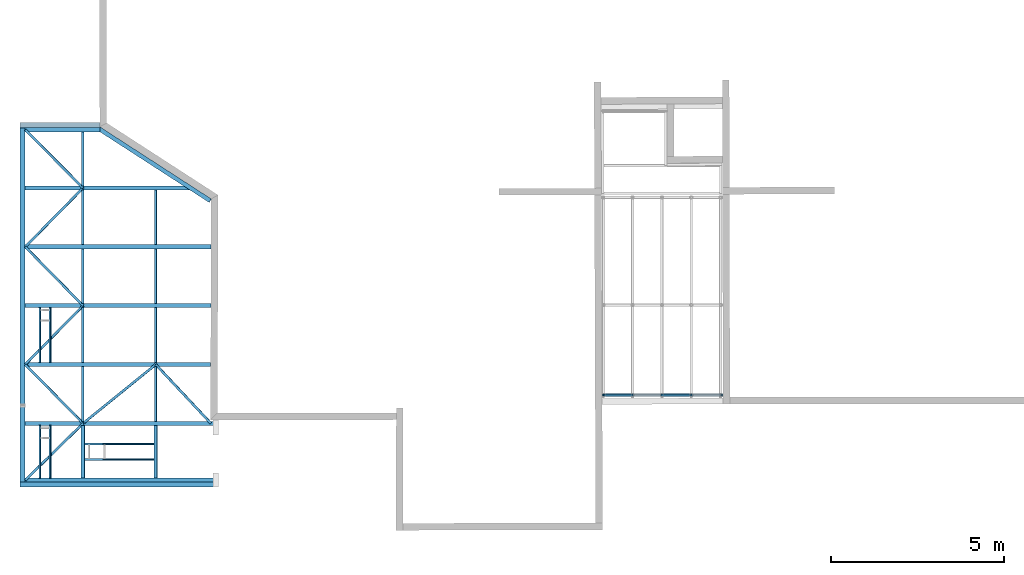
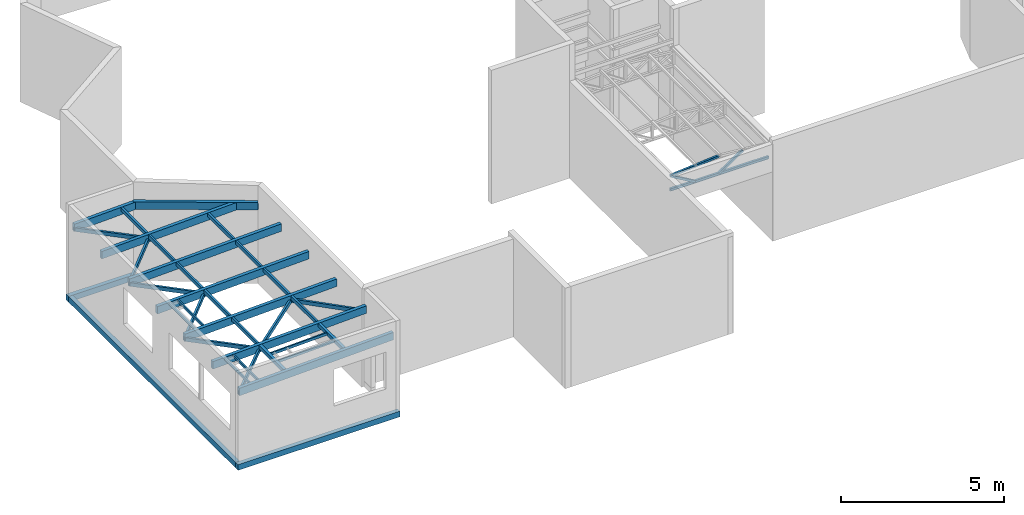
# One storey, part 3 of 9: 41 beams, 41 elements without a shape of their own.
"""IFC2X3 building model written with IfcOpenShell, lengths in millimetres."""

from ifc_helpers import new_model, si_unit, frame, origin_with_axes, origin_2d_with_axis, place, context, subcontext, project, spatial, rectangle, hollow_rectangle, u_section, extrude, clip, halfspace, material, type_object, element, aggregate, save


model = new_model("IFC2X3")

# Units and contexts
model_context = context("Model", 3, precision=1e-05, world=origin_with_axes())
body_context = subcontext(model_context, "Body", "Model", "MODEL_VIEW")
ifc_project = project(units=[si_unit("LENGTHUNIT", "METRE", prefix="MILLI"), si_unit("AREAUNIT", "SQUARE_METRE"), si_unit("VOLUMEUNIT", "CUBIC_METRE"), si_unit("MASSUNIT", "GRAM", prefix="KILO"), si_unit("TIMEUNIT", "SECOND"), si_unit("PLANEANGLEUNIT", "RADIAN"), si_unit("SOLIDANGLEUNIT", "STERADIAN"), si_unit("THERMODYNAMICTEMPERATUREUNIT", "DEGREE_CELSIUS"), si_unit("LUMINOUSINTENSITYUNIT", "LUMEN")], contexts=[model_context])

# Site, building, storey
site_placement = place(None, origin_with_axes())
site = spatial("IfcSite", under=ifc_project, at=site_placement, Name="01_26-05_PRO_BOULAZAC_CMA-FORMATION", CompositionType="ELEMENT")
building_placement = place(site_placement, origin_with_axes())
building = spatial("IfcBuilding", under=site, at=building_placement, Name="Undefined", CompositionType="ELEMENT")
storey_placement = place(building_placement, origin_with_axes())
storey = spatial("IfcBuildingStorey", under=building, at=storey_placement, Name="Undefined", CompositionType="ELEMENT", Elevation=0.0)

# Assembly, beam
assembly_1_placement = place(storey_placement, origin_with_axes())
assembly_1 = element("IfcElementAssembly", 1, at=assembly_1_placement, inside=storey, Name="OMEGA", AssemblyPlace="NOTDEFINED", PredefinedType="NOTDEFINED")
ifc_material_1 = material(Name="STEEL/S235JR")
beam_type_1 = type_object("IfcBeamType", Name="C40*30*2", PredefinedType="NOTDEFINED")
beam_1_placement = place(assembly_1_placement, frame((20796.849700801, 8060.00000006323, 2955.0), z_axis=(0.0, 1.0, 0.0), x_axis=(-1.0, 0.0, 0.0)))
beam_1 = element("IfcBeam", 2, at=beam_1_placement, type_object=beam_type_1, material=ifc_material_1, Name="OMEGA", context=body_context, shape_type="SweptSolid", body=[
    extrude(u_section(Depth=40.0, FlangeWidth=30.0, WebThickness=2.0, FlangeThickness=2.0, FilletRadius=3.0, at=origin_2d_with_axis()), frame((3479.99999999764, 0.0, 0.0), z_axis=(-1.0, 0.0, 0.0), x_axis=(0.0, -1.0, 0.0)), (0.0, 0.0, 1.0), 3480.0),
])
aggregate(assembly_1, [beam_1])

assembly_2_placement = place(storey_placement, origin_with_axes())
assembly_2 = element("IfcElementAssembly", 3, at=assembly_2_placement, inside=storey, Name="TREILLIS", AssemblyPlace="NOTDEFINED", PredefinedType="NOTDEFINED")
beam_type_2 = type_object("IfcBeamType", Name="TUBE-C-80*80*3", PredefinedType="NOTDEFINED")
beam_2_placement = place(assembly_2_placement, frame((17316.8497008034, 8060.00000006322, 3010.0), z_axis=(0.0, 0.0, 1.0), x_axis=(1.0, 0.0, 0.0)))
beam_2 = element("IfcBeam", 4, at=beam_2_placement, type_object=beam_type_2, material=ifc_material_1, Name="TREILLIS", context=body_context, shape_type="SweptSolid", body=[
    extrude(hollow_rectangle(XDim=80.0, YDim=80.0, WallThickness=3.0, InnerFilletRadius=3.0, OuterFilletRadius=6.0, at=origin_2d_with_axis()), frame((3479.99999999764, 0.0, 0.0), z_axis=(-1.0, 0.0, 0.0), x_axis=(0.0, -1.0, 0.0)), (0.0, 0.0, 1.0), 3480.0),
])
aggregate(assembly_2, [beam_2])

assembly_3_placement = place(storey_placement, origin_with_axes())
assembly_3 = element("IfcElementAssembly", 5, at=assembly_3_placement, inside=storey, Name="TREILLIS", AssemblyPlace="NOTDEFINED", PredefinedType="NOTDEFINED")
beam_3_placement = place(assembly_3_placement, frame((19886.8497008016, 8060.00000007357, 3583.64662416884), z_axis=(-0.559403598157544, 0.0, 0.828895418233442), x_axis=(-0.828895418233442, 0.0, -0.559403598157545)))
beam_3 = element("IfcBeam", 6, at=beam_3_placement, type_object=beam_type_2, material=ifc_material_1, Name="TREILLIS", context=body_context, shape_type="SweptSolid", body=[
    extrude(hollow_rectangle(XDim=80.0, YDim=80.0, WallThickness=3.0, InnerFilletRadius=3.0, OuterFilletRadius=6.0, at=origin_2d_with_axis()), frame((1025.46109069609, 1.81898940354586e-12, 0.0), z_axis=(-1.0, 0.0, 0.0), x_axis=(0.0, -1.0, 0.0)), (0.0, 0.0, 1.0), 1025.46),
])
aggregate(assembly_3, [beam_3])

assembly_4_placement = place(storey_placement, origin_with_axes())
assembly_4 = element("IfcElementAssembly", 7, at=assembly_4_placement, inside=storey, Name="TREILLIS", AssemblyPlace="NOTDEFINED", PredefinedType="NOTDEFINED")
beam_4_placement = place(assembly_4_placement, frame((17336.8497008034, 8060.0000000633, 3509.28124104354), z_axis=(0.506478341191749, 0.0, 0.862252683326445), x_axis=(0.862252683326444, 0.0, -0.50647834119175)))
beam_4 = element("IfcBeam", 8, at=beam_4_placement, type_object=beam_type_2, material=ifc_material_1, Name="TREILLIS", context=body_context, shape_type="SweptSolid", body=[
    extrude(hollow_rectangle(XDim=80.0, YDim=80.0, WallThickness=3.0, InnerFilletRadius=3.0, OuterFilletRadius=6.0, at=origin_2d_with_axis()), frame((985.789929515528, 0.0, 5.47223338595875e-14), z_axis=(-1.0, 0.0, 0.0), x_axis=(0.0, -1.0, 0.0)), (0.0, 0.0, 1.0), 985.79),
])
aggregate(assembly_4, [beam_4])

assembly_5_placement = place(storey_placement, origin_with_axes())
assembly_5 = element("IfcElementAssembly", 9, at=assembly_5_placement, inside=storey, Name="TREILLIS", AssemblyPlace="NOTDEFINED", PredefinedType="NOTDEFINED")
beam_5_placement = place(assembly_5_placement, frame((19040.3359307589, 8060.00000007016, 3658.31698534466), z_axis=(0.0, -1.0, 0.0), x_axis=(-0.996194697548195, 0.0, -0.087155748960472)))
beam_5 = element("IfcBeam", 10, at=beam_5_placement, type_object=beam_type_2, material=ifc_material_1, Name="TREILLIS", context=body_context, shape_type="SweptSolid", body=[
    extrude(hollow_rectangle(XDim=80.0, YDim=80.0, WallThickness=3.0, InnerFilletRadius=3.0, OuterFilletRadius=6.0, at=origin_2d_with_axis()), frame((1726.57012151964, -2.3960973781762e-14, 9.09494701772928e-13), z_axis=(-1.0, 0.0, 0.0), x_axis=(0.0, -1.0, 0.0)), (0.0, 0.0, 1.0), 1726.57),
])
aggregate(assembly_5, [beam_5])

assembly_6_placement = place(storey_placement, origin_with_axes())
assembly_6 = element("IfcElementAssembly", 11, at=assembly_6_placement, inside=storey, AssemblyPlace="NOTDEFINED", PredefinedType="NOTDEFINED")
ifc_material_2 = material(Name="TIMBER/C24")
beam_type_3 = type_object("IfcBeamType", Name="50*100", PredefinedType="NOTDEFINED")
beam_6_placement = place(assembly_6_placement, frame((1064.4861373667, 5664.07251771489, 2894.89372097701), z_axis=(0.999390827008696, 0.0, 0.0348994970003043), x_axis=(0.0, 1.0, 0.0)))
beam_6 = element("IfcBeam", 12, at=beam_6_placement, type_object=beam_type_3, material=ifc_material_2, Name="CHEVETRE", context=body_context, shape_type="SweptSolid", body=[
    extrude(rectangle(XDim=100.0, YDim=50.0, at=origin_2d_with_axis()), frame((1520.0, -4.54747350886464e-13, 0.0), z_axis=(-1.0, 0.0, 0.0), x_axis=(0.0, -1.0, 0.0)), (0.0, 0.0, 1.0), 1520.0),
])
aggregate(assembly_6, [beam_6])

assembly_7_placement = place(storey_placement, origin_with_axes())
assembly_7 = element("IfcElementAssembly", 13, at=assembly_7_placement, inside=storey, AssemblyPlace="NOTDEFINED", PredefinedType="NOTDEFINED")
beam_7_placement = place(assembly_7_placement, frame((1364.30338546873, 7184.07251771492, 2905.36357008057), z_axis=(-0.999390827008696, 0.0, -0.0348994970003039), x_axis=(0.0, -1.0, 0.0)))
beam_7 = element("IfcBeam", 14, at=beam_7_placement, type_object=beam_type_3, material=ifc_material_2, Name="CHEVETRE", context=body_context, shape_type="SweptSolid", body=[
    extrude(rectangle(XDim=100.0, YDim=50.0, at=origin_2d_with_axis()), frame((1520.0, -4.54747350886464e-13, 0.0), z_axis=(-1.0, 0.0, 0.0), x_axis=(0.0, -1.0, 0.0)), (0.0, 0.0, 1.0), 1520.0),
])
aggregate(assembly_7, [beam_7])

assembly_8_placement = place(storey_placement, origin_with_axes())
assembly_8 = element("IfcElementAssembly", 15, at=assembly_8_placement, inside=storey, AssemblyPlace="NOTDEFINED", PredefinedType="NOTDEFINED")
beam_8_placement = place(assembly_8_placement, frame((1064.48613736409, 9004.0725177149, 2894.89372097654), z_axis=(0.999390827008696, 0.0, 0.0348994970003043), x_axis=(0.0, 1.0, 0.0)))
beam_8 = element("IfcBeam", 16, at=beam_8_placement, type_object=beam_type_3, material=ifc_material_2, Name="CHEVETRE", context=body_context, shape_type="SweptSolid", body=[
    extrude(rectangle(XDim=100.0, YDim=50.0, at=origin_2d_with_axis()), frame((1580.0, 0.0, 0.0), z_axis=(-1.0, 0.0, 0.0), x_axis=(0.0, -1.0, 0.0)), (0.0, 0.0, 1.0), 1580.0),
])
aggregate(assembly_8, [beam_8])

assembly_9_placement = place(storey_placement, origin_with_axes())
assembly_9 = element("IfcElementAssembly", 17, at=assembly_9_placement, inside=storey, AssemblyPlace="NOTDEFINED", PredefinedType="NOTDEFINED")
beam_9_placement = place(assembly_9_placement, frame((1364.30338546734, 10584.0725177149, 2905.36357008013), z_axis=(-0.999390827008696, 0.0, -0.0348994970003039), x_axis=(0.0, -1.0, 0.0)))
beam_9 = element("IfcBeam", 18, at=beam_9_placement, type_object=beam_type_3, material=ifc_material_2, Name="CHEVETRE", context=body_context, shape_type="SweptSolid", body=[
    extrude(rectangle(XDim=100.0, YDim=50.0, at=origin_2d_with_axis()), frame((1580.0, 0.0, 0.0), z_axis=(-1.0, 0.0, 0.0), x_axis=(0.0, -1.0, 0.0)), (0.0, 0.0, 1.0), 1580.0),
])
aggregate(assembly_9, [beam_9])

assembly_10_placement = place(storey_placement, origin_with_axes())
assembly_10 = element("IfcElementAssembly", 19, at=assembly_10_placement, inside=storey, AssemblyPlace="NOTDEFINED", PredefinedType="NOTDEFINED")
beam_10_placement = place(assembly_10_placement, frame((2360.35420885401, 6649.07251771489, 2940.1464315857), z_axis=(0.0, -1.0, 0.0), x_axis=(0.999390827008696, 0.0, 0.0348994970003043)))
beam_10 = element("IfcBeam", 20, at=beam_10_placement, type_object=beam_type_3, material=ifc_material_2, Name="CHEVETRE", context=body_context, shape_type="SweptSolid", body=[
    extrude(rectangle(XDim=100.0, YDim=50.0, at=origin_2d_with_axis()), frame((1999.99999999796, 0.0, -9.09494701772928e-13), z_axis=(-1.0, 0.0, 0.0), x_axis=(0.0, -1.0, 0.0)), (0.0, 0.0, 1.0), 2000.0),
])
aggregate(assembly_10, [beam_10])

assembly_11_placement = place(storey_placement, origin_with_axes())
assembly_11 = element("IfcElementAssembly", 21, at=assembly_11_placement, inside=storey, AssemblyPlace="NOTDEFINED", PredefinedType="NOTDEFINED")
beam_11_placement = place(assembly_11_placement, frame((4359.13586287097, 6199.07251771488, 3009.94542558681), z_axis=(0.0, 1.0, 0.0), x_axis=(-0.999390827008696, 0.0, -0.0348994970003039)))
beam_11 = element("IfcBeam", 22, at=beam_11_placement, type_object=beam_type_3, material=ifc_material_2, Name="CHEVETRE", context=body_context, shape_type="SweptSolid", body=[
    extrude(rectangle(XDim=100.0, YDim=50.0, at=origin_2d_with_axis()), frame((1999.99999999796, 0.0, -9.09494701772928e-13), z_axis=(-1.0, 0.0, 0.0), x_axis=(0.0, -1.0, 0.0)), (0.0, 0.0, 1.0), 2000.0),
])
aggregate(assembly_11, [beam_11])

assembly_12_placement = place(storey_placement, origin_with_axes())
assembly_12 = element("IfcElementAssembly", 23, at=assembly_12_placement, inside=storey, Name="POUTRE", AssemblyPlace="NOTDEFINED", PredefinedType="NOTDEFINED")
ifc_material_3 = material(Name="CONCRETE/C25/30")
beam_type_4 = type_object("IfcBeamType", Name="150*210", PredefinedType="NOTDEFINED")
beam_12_placement = place(assembly_12_placement, frame((493.00006103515, 5474.07251771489, 104.999963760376), z_axis=(0.0, -1.0, 0.0), x_axis=(1.0, 0.0, 0.0)))
beam_12 = element("IfcBeam", 24, at=beam_12_placement, type_object=beam_type_4, material=ifc_material_3, Name="POUTRE", context=body_context, shape_type="SweptSolid", body=[
    extrude(rectangle(XDim=210.0, YDim=150.0, at=origin_2d_with_axis()), frame((5730.0, 0.0, 0.0), z_axis=(-1.0, 0.0, 0.0), x_axis=(0.0, -1.0, 0.0)), (0.0, 0.0, 1.0), 5730.0),
])
aggregate(assembly_12, [beam_12])

assembly_13_placement = place(storey_placement, origin_with_axes())
assembly_13 = element("IfcElementAssembly", 25, at=assembly_13_placement, inside=storey, Name="POUTRE", AssemblyPlace="NOTDEFINED", PredefinedType="NOTDEFINED")
beam_13_placement = place(assembly_13_placement, frame((568.000061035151, 15929.0725177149, 104.999963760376), z_axis=(-1.0, 0.0, 0.0), x_axis=(0.0, -1.0, 0.0)))
beam_13 = element("IfcBeam", 26, at=beam_13_placement, type_object=beam_type_4, material=ifc_material_3, Name="POUTRE", context=body_context, shape_type="SweptSolid", body=[
    extrude(rectangle(XDim=210.0, YDim=150.0, at=origin_2d_with_axis()), frame((10530.0, 0.0, 0.0), z_axis=(-1.0, 0.0, 0.0), x_axis=(0.0, -1.0, 0.0)), (0.0, 0.0, 1.0), 10530.0),
])
aggregate(assembly_13, [beam_13])

assembly_14_placement = place(storey_placement, origin_with_axes())
assembly_14 = element("IfcElementAssembly", 27, at=assembly_14_placement, inside=storey, Name="POUTRE", AssemblyPlace="NOTDEFINED", PredefinedType="NOTDEFINED")
beam_14_placement = place(assembly_14_placement, frame((2798.00006103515, 15854.0725177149, 104.999963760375), z_axis=(0.0, 1.0, 0.0), x_axis=(-1.0, 0.0, 0.0)))
beam_14 = element("IfcBeam", 28, at=beam_14_placement, type_object=beam_type_4, material=ifc_material_3, Name="POUTRE", context=body_context, shape_type="SweptSolid", body=[
    extrude(rectangle(XDim=210.0, YDim=150.0, at=origin_2d_with_axis()), frame((2305.0, 0.0, 0.0), z_axis=(-1.0, 0.0, 0.0), x_axis=(0.0, -1.0, 0.0)), (0.0, 0.0, 1.0), 2305.0),
])
aggregate(assembly_14, [beam_14])

assembly_15_placement = place(storey_placement, origin_with_axes())
assembly_15 = element("IfcElementAssembly", 29, at=assembly_15_placement, inside=storey, AssemblyPlace="NOTDEFINED", PredefinedType="NOTDEFINED")
beam_type_5 = type_object("IfcBeamType", Name="70*140", PredefinedType="NOTDEFINED")
beam_15_placement = place(assembly_15_placement, frame((2315.96858675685, 14044.0725177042, 2778.49892441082), z_axis=(0.708432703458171, 0.705344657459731, 0.0247390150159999), x_axis=(-0.704914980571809, 0.70886452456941, -0.0246161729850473)))
beam_15 = element("IfcBeam", 30, at=beam_15_placement, type_object=beam_type_5, material=ifc_material_2, Name="BUTON", context=body_context, shape_type="SweptSolid", body=[
    extrude(rectangle(XDim=140.0, YDim=70.0, at=origin_2d_with_axis()), frame((2369.98741263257, 4.54747350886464e-13, -6.16690920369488e-15), z_axis=(-1.0, 0.0, 0.0), x_axis=(0.0, -1.0, 0.0)), (0.0, 0.0, 1.0), 2369.99),
])
aggregate(assembly_15, [beam_15])

assembly_16_placement = place(storey_placement, origin_with_axes())
assembly_16 = element("IfcElementAssembly", 31, at=assembly_16_placement, inside=storey, AssemblyPlace="NOTDEFINED", PredefinedType="NOTDEFINED")
beam_16_placement = place(assembly_16_placement, frame((645.328954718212, 12344.0725174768, 2720.15890170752), z_axis=(0.712591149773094, -0.701138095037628, 0.0248842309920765), x_axis=(0.700710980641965, 0.713025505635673, 0.0244693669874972)))
beam_16 = element("IfcBeam", 32, at=beam_16_placement, type_object=beam_type_5, material=ifc_material_2, Name="BUTON", context=body_context, shape_type="SweptSolid", body=[
    extrude(rectangle(XDim=140.0, YDim=70.0, at=origin_2d_with_axis()), frame((2384.20643821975, 0.0, -1.76806565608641e-12), z_axis=(-1.0, 0.0, 0.0), x_axis=(0.0, -1.0, 0.0)), (0.0, 0.0, 1.0), 2384.21),
])
aggregate(assembly_16, [beam_16])

assembly_17_placement = place(storey_placement, origin_with_axes())
assembly_17 = element("IfcElementAssembly", 33, at=assembly_17_placement, inside=storey, AssemblyPlace="NOTDEFINED", PredefinedType="NOTDEFINED")
beam_17_placement = place(assembly_17_placement, frame((2315.96858679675, 10644.0725179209, 2778.49892404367), z_axis=(0.712591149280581, 0.701138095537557, 0.024884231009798), x_axis=(-0.70071098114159, 0.713025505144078, -0.0244693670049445)))
beam_17 = element("IfcBeam", 34, at=beam_17_placement, type_object=beam_type_5, material=ifc_material_2, Name="BUTON", context=body_context, shape_type="SweptSolid", body=[
    extrude(rectangle(XDim=140.0, YDim=70.0, at=origin_2d_with_axis()), frame((2384.20643821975, 0.0, -1.76806565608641e-12), z_axis=(-1.0, 0.0, 0.0), x_axis=(0.0, -1.0, 0.0)), (0.0, 0.0, 1.0), 2384.21),
])
aggregate(assembly_17, [beam_17])

assembly_18_placement = place(storey_placement, origin_with_axes())
assembly_18 = element("IfcElementAssembly", 35, at=assembly_18_placement, inside=storey, AssemblyPlace="NOTDEFINED", PredefinedType="NOTDEFINED")
beam_18_placement = place(assembly_18_placement, frame((645.328955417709, 8944.07251683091, 2720.15890173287), z_axis=(0.712591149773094, -0.701138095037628, 0.0248842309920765), x_axis=(0.700710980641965, 0.713025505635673, 0.0244693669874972)))
beam_18 = element("IfcBeam", 36, at=beam_18_placement, type_object=beam_type_5, material=ifc_material_2, Name="BUTON", context=body_context, shape_type="SweptSolid", body=[
    extrude(rectangle(XDim=140.0, YDim=70.0, at=origin_2d_with_axis()), frame((2384.20643821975, 0.0, -1.76806565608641e-12), z_axis=(-1.0, 0.0, 0.0), x_axis=(0.0, -1.0, 0.0)), (0.0, 0.0, 1.0), 2384.21),
])
aggregate(assembly_18, [beam_18])

assembly_19_placement = place(storey_placement, origin_with_axes())
assembly_19 = element("IfcElementAssembly", 37, at=assembly_19_placement, inside=storey, AssemblyPlace="NOTDEFINED", PredefinedType="NOTDEFINED")
beam_19_placement = place(assembly_19_placement, frame((645.328955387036, 5604.07251774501, 2720.15890242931), z_axis=(0.699888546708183, -0.71383378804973, 0.0244406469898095), x_axis=(0.71339893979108, 0.700315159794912, 0.0249124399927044)))
beam_19 = element("IfcBeam", 38, at=beam_19_placement, type_object=beam_type_5, material=ifc_material_2, Name="BUTON", context=body_context, shape_type="SweptSolid", body=[
    extrude(rectangle(XDim=140.0, YDim=70.0, at=origin_2d_with_axis()), frame((2341.8027963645, 8.12476057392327e-15, -5.91344888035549e-13), z_axis=(-1.0, 0.0, 0.0), x_axis=(0.0, -1.0, 0.0)), (0.0, 0.0, 1.0), 2341.8),
])
aggregate(assembly_19, [beam_19])

assembly_20_placement = place(storey_placement, origin_with_axes())
assembly_20 = element("IfcElementAssembly", 39, at=assembly_20_placement, inside=storey, AssemblyPlace="NOTDEFINED", PredefinedType="NOTDEFINED")
beam_20_placement = place(assembly_20_placement, frame((2315.96858749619, 7244.07251727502, 2778.49892406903), z_axis=(0.712591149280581, 0.701138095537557, 0.024884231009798), x_axis=(-0.70071098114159, 0.713025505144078, -0.0244693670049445)))
beam_20 = element("IfcBeam", 40, at=beam_20_placement, type_object=beam_type_5, material=ifc_material_2, Name="BUTON", context=body_context, shape_type="SweptSolid", body=[
    extrude(rectangle(XDim=140.0, YDim=70.0, at=origin_2d_with_axis()), frame((2384.20643821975, 0.0, -1.76806565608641e-12), z_axis=(-1.0, 0.0, 0.0), x_axis=(0.0, -1.0, 0.0)), (0.0, 0.0, 1.0), 2384.21),
])
aggregate(assembly_20, [beam_20])

assembly_21_placement = place(storey_placement, origin_with_axes())
assembly_21 = element("IfcElementAssembly", 41, at=assembly_21_placement, inside=storey, AssemblyPlace="NOTDEFINED", PredefinedType="NOTDEFINED")
beam_21_placement = place(assembly_21_placement, frame((4414.68932375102, 8944.07251772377, 2851.7878681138), z_axis=(-0.628814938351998, 0.777244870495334, -0.0219587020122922), x_axis=(-0.776771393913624, -0.629198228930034, -0.0271254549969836)))
beam_21 = element("IfcBeam", 42, at=beam_21_placement, type_object=beam_type_5, material=ifc_material_2, Name="BUTON", context=body_context, shape_type="SweptSolid", body=[
    extrude(rectangle(XDim=140.0, YDim=70.0, at=origin_2d_with_axis()), frame((2701.85121797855, 1.87478589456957e-14, 1.29001765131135e-12), z_axis=(-1.0, 0.0, 0.0), x_axis=(0.0, -1.0, 0.0)), (0.0, 0.0, 1.0), 2701.85),
])
aggregate(assembly_21, [beam_21])

assembly_22_placement = place(storey_placement, origin_with_axes())
assembly_22 = element("IfcElementAssembly", 43, at=assembly_22_placement, inside=storey, AssemblyPlace="NOTDEFINED", PredefinedType="NOTDEFINED")
beam_22_placement = place(assembly_22_placement, frame((6008.2951359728, 7244.07251771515, 2907.43780981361), z_axis=(0.728915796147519, 0.68412998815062, 0.0254543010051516), x_axis=(-0.683713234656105, 0.729360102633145, -0.0238757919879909)))
beam_22 = element("IfcBeam", 44, at=beam_22_placement, type_object=beam_type_5, material=ifc_material_2, Name="BUTON", context=body_context, shape_type="SweptSolid", body=[
    extrude(rectangle(XDim=140.0, YDim=70.0, at=origin_2d_with_axis()), frame((2330.81024555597, -1.61732450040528e-14, -4.09385264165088e-14), z_axis=(-1.0, 0.0, 0.0), x_axis=(0.0, -1.0, 0.0)), (0.0, 0.0, 1.0), 2330.81),
])
aggregate(assembly_22, [beam_22])

assembly_23_placement = place(storey_placement, origin_with_axes())
assembly_23 = element("IfcElementAssembly", 45, at=assembly_23_placement, inside=storey, AssemblyPlace="NOTDEFINED", PredefinedType="NOTDEFINED")
beam_23_placement = place(assembly_23_placement, frame((4409.80339416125, 12404.0725177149, 2991.70258389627), z_axis=(0.999390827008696, 0.0, 0.0348994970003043), x_axis=(0.0, 1.0, 0.0)))
beam_23 = element("IfcBeam", 46, at=beam_23_placement, type_object=beam_type_5, material=ifc_material_2, Name="BUTON", context=body_context, shape_type="SweptSolid", body=[
    extrude(rectangle(XDim=140.0, YDim=70.0, at=origin_2d_with_axis()), frame((1580.0, 0.0, 0.0), z_axis=(-1.0, 0.0, 0.0), x_axis=(0.0, -1.0, 0.0)), (0.0, 0.0, 1.0), 1580.0),
])
aggregate(assembly_23, [beam_23])

assembly_24_placement = place(storey_placement, origin_with_axes())
assembly_24 = element("IfcElementAssembly", 47, at=assembly_24_placement, inside=storey, AssemblyPlace="NOTDEFINED", PredefinedType="NOTDEFINED")
beam_24_placement = place(assembly_24_placement, frame((4409.80339416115, 10704.0725177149, 2991.70258389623), z_axis=(0.999390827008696, 0.0, 0.0348994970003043), x_axis=(0.0, 1.0, 0.0)))
beam_24 = element("IfcBeam", 48, at=beam_24_placement, type_object=beam_type_5, material=ifc_material_2, Name="BUTON", context=body_context, shape_type="SweptSolid", body=[
    extrude(rectangle(XDim=140.0, YDim=70.0, at=origin_2d_with_axis()), frame((1580.0, 0.0, 0.0), z_axis=(-1.0, 0.0, 0.0), x_axis=(0.0, -1.0, 0.0)), (0.0, 0.0, 1.0), 1580.0),
])
aggregate(assembly_24, [beam_24])

assembly_25_placement = place(storey_placement, origin_with_axes())
assembly_25 = element("IfcElementAssembly", 49, at=assembly_25_placement, inside=storey, AssemblyPlace="NOTDEFINED", PredefinedType="NOTDEFINED")
beam_25_placement = place(assembly_25_placement, frame((4409.80339416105, 9004.07251771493, 2991.7025838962), z_axis=(0.999390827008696, 0.0, 0.0348994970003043), x_axis=(0.0, 1.0, 0.0)))
beam_25 = element("IfcBeam", 50, at=beam_25_placement, type_object=beam_type_5, material=ifc_material_2, Name="BUTON", context=body_context, shape_type="SweptSolid", body=[
    extrude(rectangle(XDim=140.0, YDim=70.0, at=origin_2d_with_axis()), frame((1580.0, 0.0, 0.0), z_axis=(-1.0, 0.0, 0.0), x_axis=(0.0, -1.0, 0.0)), (0.0, 0.0, 1.0), 1580.0),
])
aggregate(assembly_25, [beam_25])

assembly_26_placement = place(storey_placement, origin_with_axes())
assembly_26 = element("IfcElementAssembly", 51, at=assembly_26_placement, inside=storey, AssemblyPlace="NOTDEFINED", PredefinedType="NOTDEFINED")
beam_26_placement = place(assembly_26_placement, frame((4409.80339416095, 7304.07251771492, 2991.70258389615), z_axis=(0.999390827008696, 0.0, 0.0348994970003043), x_axis=(0.0, 1.0, 0.0)))
beam_26 = element("IfcBeam", 52, at=beam_26_placement, type_object=beam_type_5, material=ifc_material_2, Name="BUTON", context=body_context, shape_type="SweptSolid", body=[
    extrude(rectangle(XDim=140.0, YDim=70.0, at=origin_2d_with_axis()), frame((1580.0, 0.0, 0.0), z_axis=(-1.0, 0.0, 0.0), x_axis=(0.0, -1.0, 0.0)), (0.0, 0.0, 1.0), 1580.0),
])
aggregate(assembly_26, [beam_26])

assembly_27_placement = place(storey_placement, origin_with_axes())
assembly_27 = element("IfcElementAssembly", 53, at=assembly_27_placement, inside=storey, AssemblyPlace="NOTDEFINED", PredefinedType="NOTDEFINED")
beam_27_placement = place(assembly_27_placement, frame((2311.0826574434, 14104.0725177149, 2918.41364018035), z_axis=(0.999390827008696, 0.0, 0.0348994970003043), x_axis=(0.0, 1.0, 0.0)))
beam_27 = element("IfcBeam", 54, at=beam_27_placement, type_object=beam_type_5, material=ifc_material_2, Name="BUTON", context=body_context, shape_type="SweptSolid", body=[
    extrude(rectangle(XDim=140.0, YDim=70.0, at=origin_2d_with_axis()), frame((1559.99999999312, 0.0, 0.0), z_axis=(-1.0, 0.0, 0.0), x_axis=(0.0, -1.0, 0.0)), (0.0, 0.0, 1.0), 1560.0),
])
aggregate(assembly_27, [beam_27])

assembly_28_placement = place(storey_placement, origin_with_axes())
assembly_28 = element("IfcElementAssembly", 55, at=assembly_28_placement, inside=storey, AssemblyPlace="NOTDEFINED", PredefinedType="NOTDEFINED")
beam_28_placement = place(assembly_28_placement, frame((2311.08265744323, 12404.0725177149, 2918.41364018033), z_axis=(0.999390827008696, 0.0, 0.0348994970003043), x_axis=(0.0, 1.0, 0.0)))
beam_28 = element("IfcBeam", 56, at=beam_28_placement, type_object=beam_type_5, material=ifc_material_2, Name="BUTON", context=body_context, shape_type="SweptSolid", body=[
    extrude(rectangle(XDim=140.0, YDim=70.0, at=origin_2d_with_axis()), frame((1580.0, 0.0, 0.0), z_axis=(-1.0, 0.0, 0.0), x_axis=(0.0, -1.0, 0.0)), (0.0, 0.0, 1.0), 1580.0),
])
aggregate(assembly_28, [beam_28])

assembly_29_placement = place(storey_placement, origin_with_axes())
assembly_29 = element("IfcElementAssembly", 57, at=assembly_29_placement, inside=storey, AssemblyPlace="NOTDEFINED", PredefinedType="NOTDEFINED")
beam_29_placement = place(assembly_29_placement, frame((2311.08265744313, 10704.0725177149, 2918.41364018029), z_axis=(0.999390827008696, 0.0, 0.0348994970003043), x_axis=(0.0, 1.0, 0.0)))
beam_29 = element("IfcBeam", 58, at=beam_29_placement, type_object=beam_type_5, material=ifc_material_2, Name="BUTON", context=body_context, shape_type="SweptSolid", body=[
    extrude(rectangle(XDim=140.0, YDim=70.0, at=origin_2d_with_axis()), frame((1580.0, 0.0, 0.0), z_axis=(-1.0, 0.0, 0.0), x_axis=(0.0, -1.0, 0.0)), (0.0, 0.0, 1.0), 1580.0),
])
aggregate(assembly_29, [beam_29])

assembly_30_placement = place(storey_placement, origin_with_axes())
assembly_30 = element("IfcElementAssembly", 59, at=assembly_30_placement, inside=storey, AssemblyPlace="NOTDEFINED", PredefinedType="NOTDEFINED")
beam_30_placement = place(assembly_30_placement, frame((2311.08265744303, 9004.07251771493, 2918.41364018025), z_axis=(0.999390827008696, 0.0, 0.0348994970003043), x_axis=(0.0, 1.0, 0.0)))
beam_30 = element("IfcBeam", 60, at=beam_30_placement, type_object=beam_type_5, material=ifc_material_2, Name="BUTON", context=body_context, shape_type="SweptSolid", body=[
    extrude(rectangle(XDim=140.0, YDim=70.0, at=origin_2d_with_axis()), frame((1580.0, 0.0, 0.0), z_axis=(-1.0, 0.0, 0.0), x_axis=(0.0, -1.0, 0.0)), (0.0, 0.0, 1.0), 1580.0),
])
aggregate(assembly_30, [beam_30])

assembly_31_placement = place(storey_placement, origin_with_axes())
assembly_31 = element("IfcElementAssembly", 61, at=assembly_31_placement, inside=storey, AssemblyPlace="NOTDEFINED", PredefinedType="NOTDEFINED")
beam_31_placement = place(assembly_31_placement, frame((2311.08265744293, 7304.07251771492, 2918.41364018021), z_axis=(0.999390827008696, 0.0, 0.0348994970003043), x_axis=(0.0, 1.0, 0.0)))
beam_31 = element("IfcBeam", 62, at=beam_31_placement, type_object=beam_type_5, material=ifc_material_2, Name="BUTON", context=body_context, shape_type="SweptSolid", body=[
    extrude(rectangle(XDim=140.0, YDim=70.0, at=origin_2d_with_axis()), frame((1580.0, 0.0, 0.0), z_axis=(-1.0, 0.0, 0.0), x_axis=(0.0, -1.0, 0.0)), (0.0, 0.0, 1.0), 1580.0),
])
aggregate(assembly_31, [beam_31])

assembly_32_placement = place(storey_placement, origin_with_axes())
assembly_32 = element("IfcElementAssembly", 63, at=assembly_32_placement, inside=storey, AssemblyPlace="NOTDEFINED", PredefinedType="NOTDEFINED")
beam_type_6 = type_object("IfcBeamType", Name="100*140", PredefinedType="NOTDEFINED")
beam_32_placement = place(assembly_32_placement, frame((4409.8033941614, 5664.07251771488, 2991.70258389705), z_axis=(0.999390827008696, 0.0, 0.0348994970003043), x_axis=(0.0, 1.0, 0.0)))
beam_32 = element("IfcBeam", 64, at=beam_32_placement, type_object=beam_type_6, material=ifc_material_2, Name="BUTON", context=body_context, shape_type="SweptSolid", body=[
    extrude(rectangle(XDim=140.0, YDim=100.0, at=origin_2d_with_axis()), frame((1520.0, -4.54747350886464e-13, 0.0), z_axis=(-1.0, 0.0, 0.0), x_axis=(0.0, -1.0, 0.0)), (0.0, 0.0, 1.0), 1520.0),
])
aggregate(assembly_32, [beam_32])

assembly_33_placement = place(storey_placement, origin_with_axes())
assembly_33 = element("IfcElementAssembly", 65, at=assembly_33_placement, inside=storey, AssemblyPlace="NOTDEFINED", PredefinedType="NOTDEFINED")
beam_33_placement = place(assembly_33_placement, frame((2311.08265744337, 5664.07251771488, 2918.4136401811), z_axis=(0.999390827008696, 0.0, 0.0348994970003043), x_axis=(0.0, 1.0, 0.0)))
beam_33 = element("IfcBeam", 66, at=beam_33_placement, type_object=beam_type_6, material=ifc_material_2, Name="BUTON", context=body_context, shape_type="SweptSolid", body=[
    extrude(rectangle(XDim=140.0, YDim=100.0, at=origin_2d_with_axis()), frame((1520.0, -4.54747350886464e-13, 0.0), z_axis=(-1.0, 0.0, 0.0), x_axis=(0.0, -1.0, 0.0)), (0.0, 0.0, 1.0), 1520.0),
])
aggregate(assembly_33, [beam_33])

assembly_34_placement = place(storey_placement, origin_with_axes())
assembly_34 = element("IfcElementAssembly", 67, at=assembly_34_placement, inside=storey, AssemblyPlace="NOTDEFINED", PredefinedType="NOTDEFINED")
beam_type_7 = type_object("IfcBeamType", Name="120*280", PredefinedType="NOTDEFINED")
beam_34_placement = place(assembly_34_placement, frame((5987.28781200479, 13676.2496152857, 2977.91017985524), z_axis=(-0.543191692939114, -0.839608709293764, 6.17728801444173e-12), x_axis=(-0.839248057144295, 0.542958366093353, -0.0293071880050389)))
beam_34 = element("IfcBeam", 68, at=beam_34_placement, type_object=beam_type_7, material=ifc_material_2, Name="LIGNEUL", context=body_context, shape_type="SweptSolid", body=[
    extrude(rectangle(XDim=280.0, YDim=120.0, at=origin_2d_with_axis()), frame((3834.51086249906, 1.33036320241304e-14, -1.88406287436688e-12), z_axis=(-1.0, 0.0, 0.0), x_axis=(0.0, -1.0, 0.0)), (0.0, 0.0, 1.0), 3834.51),
])
aggregate(assembly_34, [beam_34])

assembly_35_placement = place(storey_placement, origin_with_axes())
assembly_35 = element("IfcElementAssembly", 69, at=assembly_35_placement, inside=storey, AssemblyPlace="NOTDEFINED", PredefinedType="NOTDEFINED")
beam_35_placement = place(assembly_35_placement, frame((2852.85553193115, 15724.0725177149, 2867.290098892), z_axis=(0.0, -1.0, 0.0), x_axis=(-0.999390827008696, 0.0, -0.0348994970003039)))
beam_35 = element("IfcBeam", 70, at=beam_35_placement, type_object=beam_type_7, material=ifc_material_2, Name="CHEVRONS", context=body_context, shape_type="Clipping", body=[
    clip(clip(extrude(rectangle(XDim=280.0, YDim=120.0, at=origin_2d_with_axis()), frame((2261.31661570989, 4.54747350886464e-13, -1.81898940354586e-12), z_axis=(-1.0, 0.0, 0.0), x_axis=(0.0, -1.0, 0.0)), (0.0, 0.0, 1.0), 2261.32), halfspace(frame((59.7778155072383, 140.00000001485, -60.0000000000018), z_axis=(-0.999390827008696, 0.0348994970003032, 0.0), x_axis=(0.0, 0.0, 1.0)), False)), halfspace(frame((2221.09443124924, 140.000000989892, -1.81898940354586e-12), z_axis=(0.999390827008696, -0.0348994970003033, 0.0), x_axis=(0.0, 0.0, -1.0)), False)),
])
aggregate(assembly_35, [beam_35])

assembly_36_placement = place(storey_placement, origin_with_axes())
assembly_36 = element("IfcElementAssembly", 71, at=assembly_36_placement, inside=storey, AssemblyPlace="NOTDEFINED", PredefinedType="NOTDEFINED")
beam_36_placement = place(assembly_36_placement, frame((5634.02902884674, 14044.072517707, 2964.41081736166), z_axis=(0.0, -1.0, 0.0), x_axis=(-0.999390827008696, 0.0, -0.0348994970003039)))
beam_36 = element("IfcBeam", 72, at=beam_36_placement, type_object=beam_type_7, material=ifc_material_2, Name="CHEVRONS", context=body_context, shape_type="Clipping", body=[
    clip(clip(clip(extrude(rectangle(XDim=280.0, YDim=120.0, at=origin_2d_with_axis()), frame((5044.18536108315, 4.19746283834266e-13, -1.81898940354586e-12), z_axis=(-1.0, 0.0, 0.0), x_axis=(0.0, -1.0, 0.0)), (0.0, 0.0, 1.0), 5044.19), halfspace(frame((202.576048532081, 140.000000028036, -60.0000000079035), z_axis=(-0.542860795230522, 0.018957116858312, -0.839608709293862), x_axis=(-0.839759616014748, 1.95162950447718e-10, 0.542958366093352)), False)), halfspace(frame((5003.96317660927, 140.000000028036, 59.9999999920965), z_axis=(0.999390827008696, -0.0348994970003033, 0.0), x_axis=(0.0, 0.0, -1.0)), False)), halfspace(frame((-439.35274443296, 140.000000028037, -60.0000000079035), z_axis=(-0.999390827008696, 0.0348994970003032, 0.0), x_axis=(0.0, 0.0, 1.0)), False)),
])
aggregate(assembly_36, [beam_36])

assembly_37_placement = place(storey_placement, origin_with_axes())
assembly_37 = element("IfcElementAssembly", 73, at=assembly_37_placement, inside=storey, AssemblyPlace="NOTDEFINED", PredefinedType="NOTDEFINED")
beam_37_placement = place(assembly_37_placement, frame((6066.04826858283, 12344.0725177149, 2979.49726176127), z_axis=(0.0, -1.0, 0.0), x_axis=(-0.999390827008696, 0.0, -0.0348994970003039)))
beam_37 = element("IfcBeam", 74, at=beam_37_placement, type_object=beam_type_7, material=ifc_material_2, Name="CHEVRONS", context=body_context, shape_type="Clipping", body=[
    clip(clip(extrude(rectangle(XDim=280.0, YDim=120.0, at=origin_2d_with_axis()), frame((5476.4679356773, 0.0, -1.81898940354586e-12), z_axis=(-1.0, 0.0, 0.0), x_axis=(0.0, -1.0, 0.0)), (0.0, 0.0, 1.0), 5476.47), halfspace(frame((50.1805786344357, -140.0, 59.9999999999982), z_axis=(-0.999386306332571, 0.0348993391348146, 0.00300779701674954), x_axis=(-0.00300963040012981, -4.13136097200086e-10, -0.999995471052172)), False)), halfspace(frame((5436.24575121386, 140.00000001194, 60.0), z_axis=(0.999390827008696, -0.0348994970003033, 0.0), x_axis=(0.0, 0.0, -1.0)), False)),
])
aggregate(assembly_37, [beam_37])

assembly_38_placement = place(storey_placement, origin_with_axes())
assembly_38 = element("IfcElementAssembly", 75, at=assembly_38_placement, inside=storey, AssemblyPlace="NOTDEFINED", PredefinedType="NOTDEFINED")
beam_38_placement = place(assembly_38_placement, frame((6060.93499055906, 10644.0725177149, 2979.31870215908), z_axis=(0.0, -1.0, 0.0), x_axis=(-0.999390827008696, 0.0, -0.0348994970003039)))
beam_38 = element("IfcBeam", 76, at=beam_38_placement, type_object=beam_type_7, material=ifc_material_2, Name="CHEVRONS", context=body_context, shape_type="Clipping", body=[
    clip(clip(extrude(rectangle(XDim=280.0, YDim=120.0, at=origin_2d_with_axis()), frame((5471.35154088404, 0.0, 0.0), z_axis=(-1.0, 0.0, 0.0), x_axis=(0.0, -1.0, 0.0)), (0.0, 0.0, 1.0), 5471.35), halfspace(frame((50.1805786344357, -140.0, 59.9999999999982), z_axis=(-0.999386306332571, 0.0348993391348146, 0.00300779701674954), x_axis=(-0.00300963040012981, -4.13136097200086e-10, -0.999995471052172)), False)), halfspace(frame((5431.12935642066, 140.000000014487, 59.9999999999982), z_axis=(0.999390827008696, -0.0348994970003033, 0.0), x_axis=(0.0, 0.0, -1.0)), False)),
])
aggregate(assembly_38, [beam_38])

assembly_39_placement = place(storey_placement, origin_with_axes())
assembly_39 = element("IfcElementAssembly", 77, at=assembly_39_placement, inside=storey, AssemblyPlace="NOTDEFINED", PredefinedType="NOTDEFINED")
beam_39_placement = place(assembly_39_placement, frame((6055.82171253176, 8944.07251771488, 2979.14014255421), z_axis=(0.0, -1.0, 0.0), x_axis=(-0.999390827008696, 0.0, -0.0348994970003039)))
beam_39 = element("IfcBeam", 78, at=beam_39_placement, type_object=beam_type_7, material=ifc_material_2, Name="CHEVRONS", context=body_context, shape_type="Clipping", body=[
    clip(clip(extrude(rectangle(XDim=280.0, YDim=120.0, at=origin_2d_with_axis()), frame((5466.23514608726, 0.0, -1.81898940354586e-12), z_axis=(-1.0, 0.0, 0.0), x_axis=(0.0, -1.0, 0.0)), (0.0, 0.0, 1.0), 5466.24), halfspace(frame((59.5972369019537, 140.0, -60.0000000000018), z_axis=(-0.999386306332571, 0.0348993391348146, 0.00300779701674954), x_axis=(0.00300963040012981, 4.13136097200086e-10, 0.999995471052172)), False)), halfspace(frame((5426.01296162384, 140.000000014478, 59.9999999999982), z_axis=(0.999390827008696, -0.0348994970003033, 0.0), x_axis=(0.0, 0.0, -1.0)), False)),
])
aggregate(assembly_39, [beam_39])

assembly_40_placement = place(storey_placement, origin_with_axes())
assembly_40 = element("IfcElementAssembly", 79, at=assembly_40_placement, inside=storey, AssemblyPlace="NOTDEFINED", PredefinedType="NOTDEFINED")
beam_40_placement = place(assembly_40_placement, frame((6132.85553192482, 7244.07251771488, 2981.83022282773), z_axis=(0.0, -1.0, 0.0), x_axis=(-0.999390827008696, 0.0, -0.0348994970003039)))
beam_40 = element("IfcBeam", 80, at=beam_40_placement, type_object=beam_type_7, material=ifc_material_2, Name="CHEVRONS", context=body_context, shape_type="Clipping", body=[
    clip(clip(extrude(rectangle(XDim=280.0, YDim=120.0, at=origin_2d_with_axis()), frame((5543.315921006, 0.0, -9.09494701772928e-13), z_axis=(-1.0, 0.0, 0.0), x_axis=(0.0, -1.0, 0.0)), (0.0, 0.0, 1.0), 5543.32), halfspace(frame((5503.09373654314, 140.000000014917, 59.9999999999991), z_axis=(0.999390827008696, -0.0348994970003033, 0.0), x_axis=(0.0, 0.0, -1.0)), False)), halfspace(frame((59.7778155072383, 140.00000001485, -60.0000000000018), z_axis=(-0.999390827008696, 0.0348994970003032, 0.0), x_axis=(0.0, 0.0, 1.0)), False)),
])
aggregate(assembly_40, [beam_40])

assembly_41_placement = place(storey_placement, origin_with_axes())
assembly_41 = element("IfcElementAssembly", 81, at=assembly_41_placement, inside=storey, AssemblyPlace="NOTDEFINED", PredefinedType="NOTDEFINED")
beam_41_placement = place(assembly_41_placement, frame((6132.85553192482, 5604.07251771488, 2981.83022282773), z_axis=(0.0, -1.0, 0.0), x_axis=(-0.999390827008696, 0.0, -0.0348994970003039)))
beam_41 = element("IfcBeam", 82, at=beam_41_placement, type_object=beam_type_7, material=ifc_material_2, Name="CHEVRONS", context=body_context, shape_type="Clipping", body=[
    clip(clip(extrude(rectangle(XDim=280.0, YDim=120.0, at=origin_2d_with_axis()), frame((5543.315921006, 0.0, -9.09494701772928e-13), z_axis=(-1.0, 0.0, 0.0), x_axis=(0.0, -1.0, 0.0)), (0.0, 0.0, 1.0), 5543.32), halfspace(frame((5503.09373654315, 140.000000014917, 120.0), z_axis=(0.999390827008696, -0.0348994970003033, 0.0), x_axis=(0.0, 0.0, -1.0)), False)), halfspace(frame((59.7778155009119, 140.000000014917, 0.0), z_axis=(-0.999390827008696, 0.0348994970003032, 0.0), x_axis=(0.0, 0.0, 1.0)), False)),
])
aggregate(assembly_41, [beam_41])

save(model, "model.ifc")
